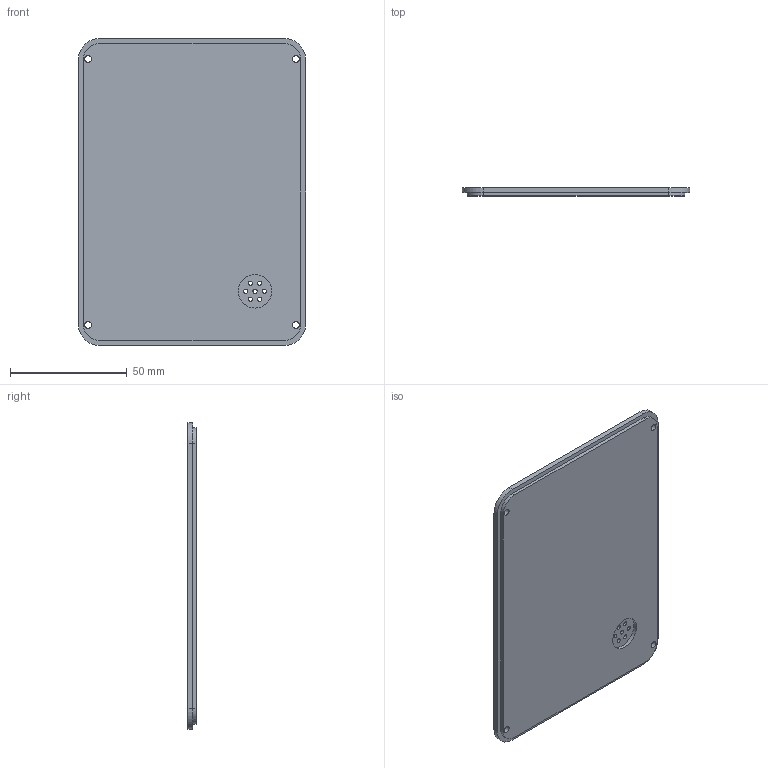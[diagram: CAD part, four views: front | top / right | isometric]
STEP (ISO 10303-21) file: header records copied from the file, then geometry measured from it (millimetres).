
FILE_DESCRIPTION(('Open CASCADE Model'),'2;1');
FILE_NAME('AETHER KEYNODE V1 rear cover','2026-10-12T13:28:42',('Author' ),('Open CASCADE'),'Open CASCADE STEP processor 7.9','build123d', 'Unknown');
FILE_SCHEMA(('AUTOMOTIVE_DESIGN { 1 0 10303 214 1 1 1 1 }'));
Length unit declared in the file: millimetre
Products named in the file (1): AETHER KEYNODE V1 rear cover
Bounding box: 97.4 x 3.5 x 131.4 mm (x, y, z)
Volume: 42779.4 mm3; surface area: 27178.6 mm2
Topology: 1 solids, 1 shells, 40 faces, 96 edges, 64 vertices
Faces by surface type: cylinder 24, plane 16
Full cylindrical faces by diameter (mm): 1.8 x7, 2.9 x4, 3.5 x4, 14.4 x1
Entity records: 2525 total; most frequent: CARTESIAN_POINT 441, DIRECTION 410, ORIENTED_EDGE 192, LINE 192, VECTOR 192, PCURVE 192, DEFINITIONAL_REPRESENTATION 192, EDGE_CURVE 96
